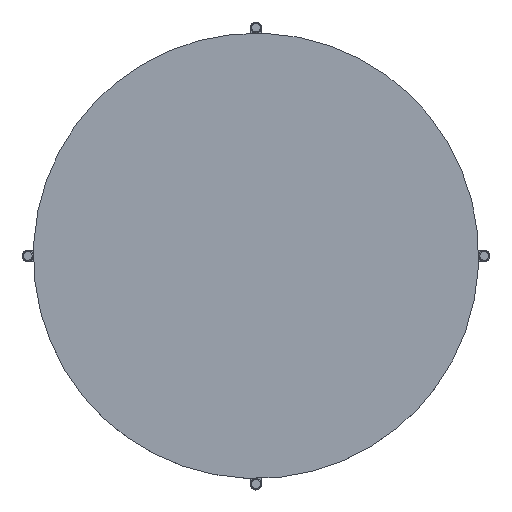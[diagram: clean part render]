
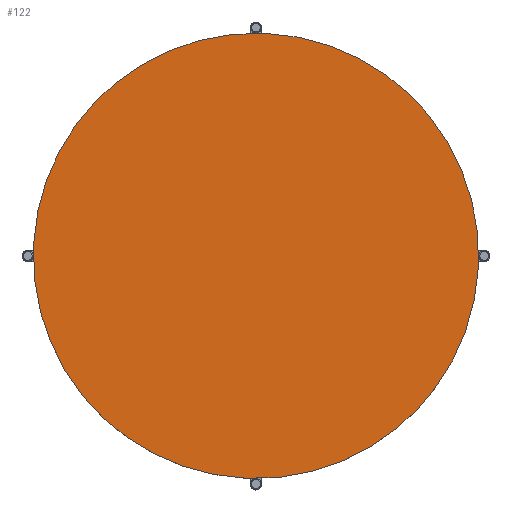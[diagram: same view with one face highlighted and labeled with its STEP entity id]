
A CAD part, top view. The second image highlights one B-rep face of the part: STEP entity #122.
In plain terms, the highlighted planar face has unit normal (0, 0, 1).
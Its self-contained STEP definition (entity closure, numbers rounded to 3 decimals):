
#122=ADVANCED_FACE('',(#170),#575,.T.);
#170=FACE_OUTER_BOUND('',#218,.T.);
#218=EDGE_LOOP('',(#270,#271));
#270=ORIENTED_EDGE('',*,*,#438,.T.);
#271=ORIENTED_EDGE('',*,*,#441,.T.);
#438=EDGE_CURVE('',#523,#525,#635,.T.);
#441=EDGE_CURVE('',#525,#523,#638,.T.);
#523=VERTEX_POINT('',#780);
#525=VERTEX_POINT('',#782);
#575=PLANE('',#696);
#635=(
BOUNDED_CURVE()
B_SPLINE_CURVE(2,(#790,#791,#792,#793,#794),.UNSPECIFIED.,.F.,.F.)
B_SPLINE_CURVE_WITH_KNOTS((3,2,3),(0.,62.832,125.664),
 .UNSPECIFIED.)
CURVE()
GEOMETRIC_REPRESENTATION_ITEM()
RATIONAL_B_SPLINE_CURVE((1.,0.707,1.,0.707,1.))
REPRESENTATION_ITEM('')
);
#638=(
BOUNDED_CURVE()
B_SPLINE_CURVE(2,(#802,#803,#804,#805,#806),.UNSPECIFIED.,.F.,.F.)
B_SPLINE_CURVE_WITH_KNOTS((3,2,3),(125.664,188.496,251.327),
 .UNSPECIFIED.)
CURVE()
GEOMETRIC_REPRESENTATION_ITEM()
RATIONAL_B_SPLINE_CURVE((1.,0.707,1.,0.707,1.))
REPRESENTATION_ITEM('')
);
#696=AXIS2_PLACEMENT_3D('',#768,#722,$);
#722=DIRECTION('',(0.,0.,1.));
#768=CARTESIAN_POINT('',(8751.437,-707.107,68.2));
#780=CARTESIAN_POINT('',(9023.481,293.245,68.2));
#782=CARTESIAN_POINT('',(8479.394,-293.245,68.2));
#790=CARTESIAN_POINT('',(9023.481,293.245,68.2));
#791=CARTESIAN_POINT('',(8730.236,565.288,68.2));
#792=CARTESIAN_POINT('',(8458.193,272.043,68.2));
#793=CARTESIAN_POINT('',(8186.149,-21.201,68.2));
#794=CARTESIAN_POINT('',(8479.394,-293.245,68.2));
#802=CARTESIAN_POINT('',(8479.394,-293.245,68.2));
#803=CARTESIAN_POINT('',(8772.639,-565.288,68.2));
#804=CARTESIAN_POINT('',(9044.682,-272.043,68.2));
#805=CARTESIAN_POINT('',(9316.725,21.201,68.2));
#806=CARTESIAN_POINT('',(9023.481,293.245,68.2));
